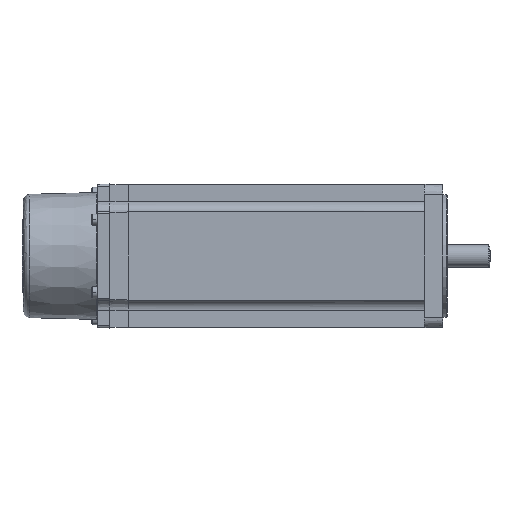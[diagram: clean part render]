
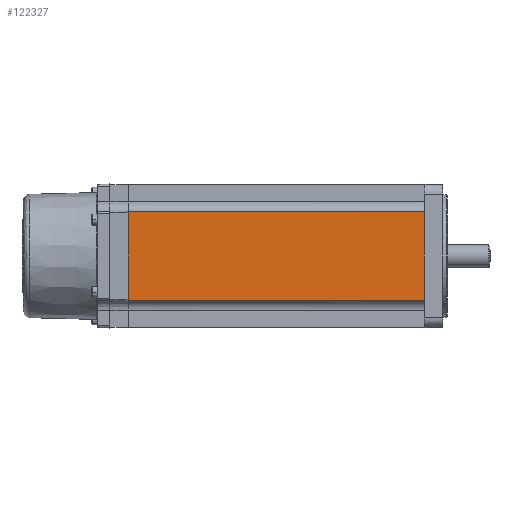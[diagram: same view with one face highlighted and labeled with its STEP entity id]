
A CAD part, front view. The second image highlights one B-rep face of the part: STEP entity #122327.
In plain terms, the highlighted planar face has unit normal (0, -1, 0) as drawn and (0, 1, 0) by its records, which use the part's own axes.
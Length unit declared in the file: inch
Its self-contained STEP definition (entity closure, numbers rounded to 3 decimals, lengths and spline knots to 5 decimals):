
#10615 = DIRECTION ( 'NONE',  ( 0., 0., 1. ) ) ;
#13184 = EDGE_CURVE ( 'NONE', #27318, #38745, #67570, .T. ) ;
#22369 = VECTOR ( 'NONE', #10615, 39.37008 ) ;
#22952 = VERTEX_POINT ( 'NONE', #105791 ) ;
#27318 = VERTEX_POINT ( 'NONE', #45190 ) ;
#27990 = EDGE_CURVE ( 'NONE', #22952, #147837, #66072, .T. ) ;
#34874 = DIRECTION ( 'NONE',  ( 0., 1., 0. ) ) ;
#34988 = DIRECTION ( 'NONE',  ( 1., 0., 0. ) ) ;
#38745 = VERTEX_POINT ( 'NONE', #93649 ) ;
#39537 = ORIENTED_EDGE ( 'NONE', *, *, #13184, .T. ) ;
#40502 = ORIENTED_EDGE ( 'NONE', *, *, #109464, .F. ) ;
#45190 = CARTESIAN_POINT ( 'NONE',  ( -0.84711, 1.37795, 4.43307 ) ) ;
#51287 = AXIS2_PLACEMENT_3D ( 'NONE', #103046, #34874, #114614 ) ;
#62736 = LINE ( 'NONE', #109711, #66299 ) ;
#66072 = LINE ( 'NONE', #103645, #126773 ) ;
#66299 = VECTOR ( 'NONE', #120669, 39.37008 ) ;
#67570 = LINE ( 'NONE', #73725, #128249 ) ;
#73725 = CARTESIAN_POINT ( 'NONE',  ( -1.37795, 1.37795, 4.43307 ) ) ;
#73979 = ORIENTED_EDGE ( 'NONE', *, *, #27990, .F. ) ;
#79373 = CARTESIAN_POINT ( 'NONE',  ( 0.84711, 1.37795, -1.25984 ) ) ;
#84731 = EDGE_LOOP ( 'NONE', ( #114236, #73979, #40502, #39537 ) ) ;
#87094 = DIRECTION ( 'NONE',  ( 1., 0., 0. ) ) ;
#93649 = CARTESIAN_POINT ( 'NONE',  ( 0.84711, 1.37795, 4.43307 ) ) ;
#99697 = FACE_OUTER_BOUND ( 'NONE', #84731, .T. ) ;
#103046 = CARTESIAN_POINT ( 'NONE',  ( -1.37795, 1.37795, 4.43307 ) ) ;
#103645 = CARTESIAN_POINT ( 'NONE',  ( -1.37795, 1.37795, -1.25984 ) ) ;
#105791 = CARTESIAN_POINT ( 'NONE',  ( -0.84711, 1.37795, -1.25984 ) ) ;
#109464 = EDGE_CURVE ( 'NONE', #27318, #22952, #62736, .T. ) ;
#109711 = CARTESIAN_POINT ( 'NONE',  ( -0.84711, 1.37795, 4.6063 ) ) ;
#114236 = ORIENTED_EDGE ( 'NONE', *, *, #132785, .F. ) ;
#114614 = DIRECTION ( 'NONE',  ( 0., 0., 1. ) ) ;
#120669 = DIRECTION ( 'NONE',  ( 0., 0., -1. ) ) ;
#122327 = ADVANCED_FACE ( 'NONE', ( #99697 ), #125529, .T. ) ;
#125529 = PLANE ( 'NONE',  #51287 ) ;
#126773 = VECTOR ( 'NONE', #34988, 39.37008 ) ;
#128249 = VECTOR ( 'NONE', #87094, 39.37008 ) ;
#132785 = EDGE_CURVE ( 'NONE', #147837, #38745, #140135, .T. ) ;
#140135 = LINE ( 'NONE', #147187, #22369 ) ;
#147187 = CARTESIAN_POINT ( 'NONE',  ( 0.84711, 1.37795, -1.25984 ) ) ;
#147837 = VERTEX_POINT ( 'NONE', #79373 ) ;
